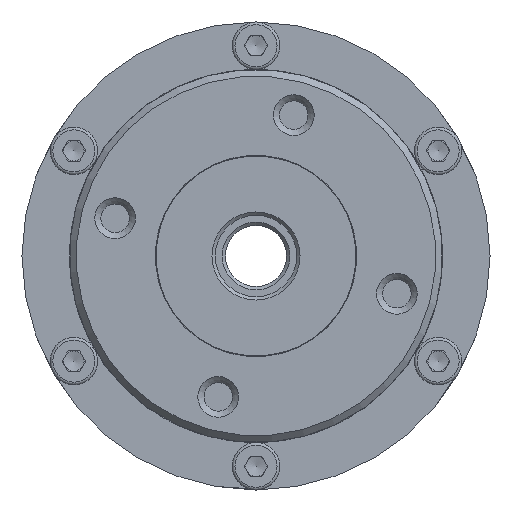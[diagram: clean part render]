
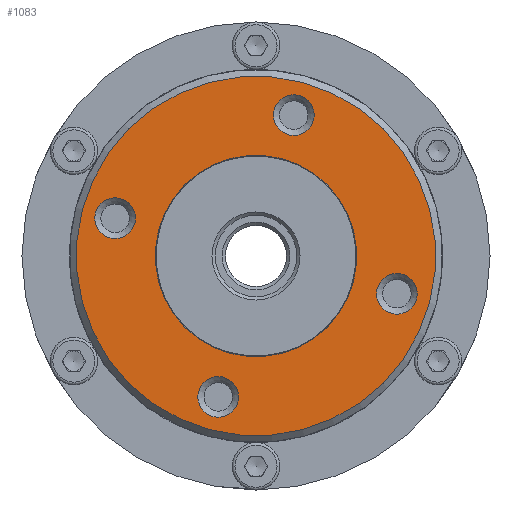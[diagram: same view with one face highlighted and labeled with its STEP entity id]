
A CAD part, left-side view. The second image highlights one B-rep face of the part: STEP entity #1083.
In plain terms, the highlighted planar face has unit normal (-1, 0, 0).
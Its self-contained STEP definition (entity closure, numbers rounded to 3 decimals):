
#1083 = ADVANCED_FACE( '', ( #3072, #3073, #3074, #3075, #3076, #3077 ), #3078, .T. );
#3072 = FACE_OUTER_BOUND( '', #6340, .T. );
#3073 = FACE_BOUND( '', #6341, .T. );
#3074 = FACE_BOUND( '', #6342, .T. );
#3075 = FACE_BOUND( '', #6343, .T. );
#3076 = FACE_BOUND( '', #6344, .T. );
#3077 = FACE_BOUND( '', #6345, .T. );
#3078 = PLANE( '', #6346 );
#6340 = EDGE_LOOP( '', ( #9963 ) );
#6341 = EDGE_LOOP( '', ( #9964 ) );
#6342 = EDGE_LOOP( '', ( #9965 ) );
#6343 = EDGE_LOOP( '', ( #9966 ) );
#6344 = EDGE_LOOP( '', ( #9967 ) );
#6345 = EDGE_LOOP( '', ( #9968 ) );
#6346 = AXIS2_PLACEMENT_3D( '', #9969, #9970, #9971 );
#9963 = ORIENTED_EDGE( '', *, *, #17973, .T. );
#9964 = ORIENTED_EDGE( '', *, *, #17974, .T. );
#9965 = ORIENTED_EDGE( '', *, *, #17975, .T. );
#9966 = ORIENTED_EDGE( '', *, *, #17976, .T. );
#9967 = ORIENTED_EDGE( '', *, *, #17977, .T. );
#9968 = ORIENTED_EDGE( '', *, *, #17978, .F. );
#9969 = CARTESIAN_POINT( '', ( -58.5, -14.344, -3.843 ) );
#9970 = DIRECTION( '', ( -1., 0., 0. ) );
#9971 = DIRECTION( '', ( 0., 0., 1. ) );
#17973 = EDGE_CURVE( '', #21232, #21232, #21233, .T. );
#17974 = EDGE_CURVE( '', #21234, #21234, #21235, .T. );
#17975 = EDGE_CURVE( '', #21236, #21236, #21237, .T. );
#17976 = EDGE_CURVE( '', #21238, #21238, #21239, .T. );
#17977 = EDGE_CURVE( '', #21240, #21240, #21241, .T. );
#17978 = EDGE_CURVE( '', #21242, #21242, #21243, .T. );
#21232 = VERTEX_POINT( '', #26062 );
#21233 = CIRCLE( '', #26063, 26.5 );
#21234 = VERTEX_POINT( '', #26064 );
#21235 = CIRCLE( '', #26065, 3. );
#21236 = VERTEX_POINT( '', #26066 );
#21237 = CIRCLE( '', #26067, 3. );
#21238 = VERTEX_POINT( '', #26068 );
#21239 = CIRCLE( '', #26069, 3. );
#21240 = VERTEX_POINT( '', #26070 );
#21241 = CIRCLE( '', #26071, 3. );
#21242 = VERTEX_POINT( '', #26072 );
#21243 = CIRCLE( '', #26073, 14.85 );
#26062 = CARTESIAN_POINT( '', ( -58.5, -25.597, -6.859 ) );
#26063 = AXIS2_PLACEMENT_3D( '', #33918, #33919, #33920 );
#26064 = CARTESIAN_POINT( '', ( -58.5, -17.87, -4.788 ) );
#26065 = AXIS2_PLACEMENT_3D( '', #33921, #33922, #33923 );
#26066 = CARTESIAN_POINT( '', ( -58.5, -2.667, 21.544 ) );
#26067 = AXIS2_PLACEMENT_3D( '', #33924, #33925, #33926 );
#26068 = CARTESIAN_POINT( '', ( -58.5, 23.665, 6.341 ) );
#26069 = AXIS2_PLACEMENT_3D( '', #33927, #33928, #33929 );
#26070 = CARTESIAN_POINT( '', ( -58.5, 8.462, -19.991 ) );
#26071 = AXIS2_PLACEMENT_3D( '', #33930, #33931, #33932 );
#26072 = CARTESIAN_POINT( '', ( -58.5, -14.344, -3.843 ) );
#26073 = AXIS2_PLACEMENT_3D( '', #33933, #33934, #33935 );
#33918 = CARTESIAN_POINT( '', ( -58.5, 0., 0. ) );
#33919 = DIRECTION( '', ( -1., 0., 0. ) );
#33920 = DIRECTION( '', ( 0., -0.966, -0.259 ) );
#33921 = CARTESIAN_POINT( '', ( -58.5, -20.767, -5.565 ) );
#33922 = DIRECTION( '', ( 1., 0., 0. ) );
#33923 = DIRECTION( '', ( 0., 0.966, 0.259 ) );
#33924 = CARTESIAN_POINT( '', ( -58.5, -5.565, 20.767 ) );
#33925 = DIRECTION( '', ( 1., 0., 0. ) );
#33926 = DIRECTION( '', ( 0., 0.966, 0.259 ) );
#33927 = CARTESIAN_POINT( '', ( -58.5, 20.767, 5.565 ) );
#33928 = DIRECTION( '', ( 1., 0., 0. ) );
#33929 = DIRECTION( '', ( 0., 0.966, 0.259 ) );
#33930 = CARTESIAN_POINT( '', ( -58.5, 5.565, -20.767 ) );
#33931 = DIRECTION( '', ( 1., 0., 0. ) );
#33932 = DIRECTION( '', ( 0., 0.966, 0.259 ) );
#33933 = CARTESIAN_POINT( '', ( -58.5, 0., 0. ) );
#33934 = DIRECTION( '', ( -1., 0., 0. ) );
#33935 = DIRECTION( '', ( 0., -0.966, -0.259 ) );
